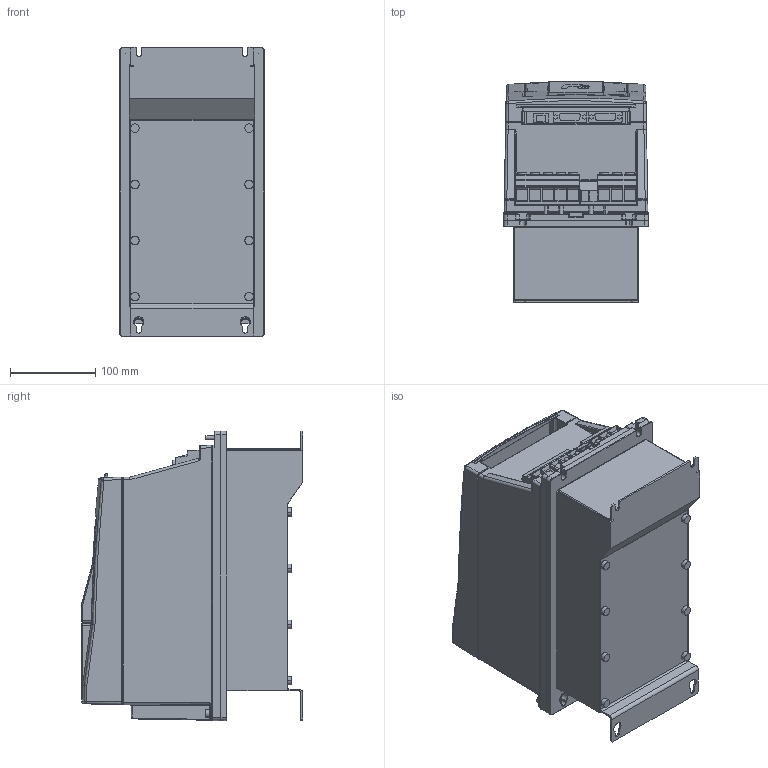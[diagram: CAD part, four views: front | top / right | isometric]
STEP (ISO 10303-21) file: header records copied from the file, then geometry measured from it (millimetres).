
FILE_DESCRIPTION (( 'STEP AP214' ), '1' );
FILE_NAME ('Housing F6-3 TR0-A011.STEP', '2020-11-10T08:51:48', ( '' ), ( '' ), 'SwSTEP 2.0', 'SolidWorks 2019', '' );
FILE_SCHEMA (( 'AUTOMOTIVE_DESIGN' ));
Length unit declared in the file: millimetre
Products named in the file (9): 10059764_000_Blindabdeckung (Kundenmodell); 10060392_000; 10044643_000_Kundenmodell; Housing F6-3 TR0-A011; 10059761_000; 10040482_000_Kundenmodell; 10059765_000; 10060393_000; 10036504_000_Leistungsteil TR0 (Kundenmodell)
Assembly tree (8 placements, depth 4):
  Housing F6-3 TR0-A011
    10036504_000_Leistungsteil TR0 (Kundenmodell)
      10060392_000
    10040482_000_Kundenmodell
      10060393_000
    10044643_000_Kundenmodell
      10059764_000_Blindabdeckung (Kundenmodell)
        10059765_000
      10059761_000
Bounding box: 170 x 259.88 x 340 mm (x, y, z)
Volume: 10580885.7 mm3; surface area: 629537.1 mm2
Topology: 11 solids, 15 shells, 2004 faces, 5018 edges, 3074 vertices
Faces by surface type: plane 874, cylinder 600, bspline 319, torus 92, cone 69, sphere 50
Entity records: 66702 total; most frequent: CARTESIAN_POINT 21439, ORIENTED_EDGE 9908, DIRECTION 8665, EDGE_CURVE 4954, VERTEX_POINT 3074, AXIS2_PLACEMENT_3D 2973, VECTOR 2719, LINE 2719
